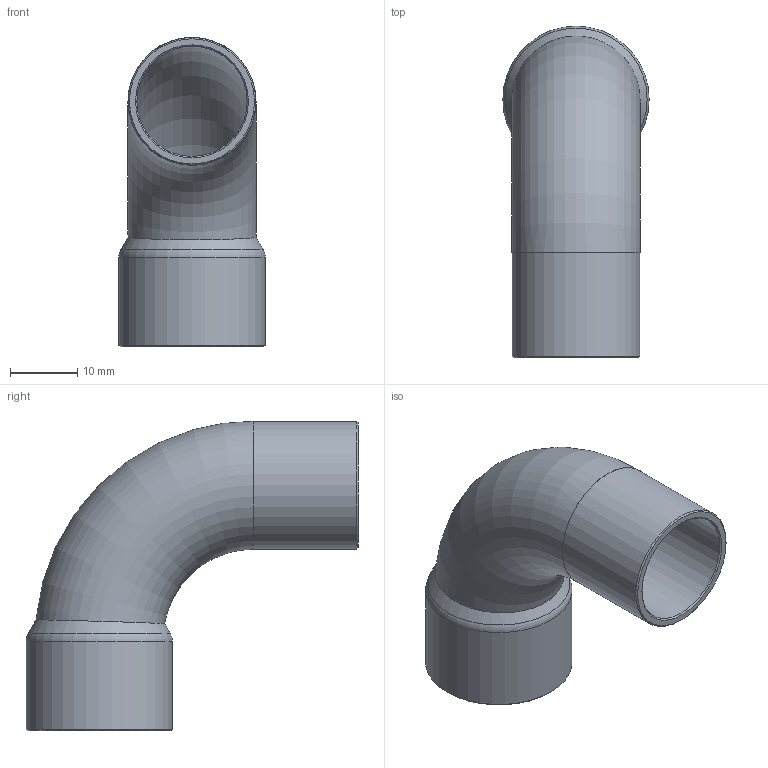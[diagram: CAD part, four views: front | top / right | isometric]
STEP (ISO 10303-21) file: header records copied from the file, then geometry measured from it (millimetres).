
FILE_DESCRIPTION((''),'2;1');
FILE_NAME('G:\SANHA-Ternat\Technik\Management\Bouwmaten + markeringen\z-maattekeningen 3D\29000s\29001A34_3d.stp','2017-07-26T09:54:39',('vdvijverd'),(''),'Autodesk Inventor 2009','Autodesk Inventor 2009','');
FILE_SCHEMA(('AUTOMOTIVE_DESIGN { 1 0 10303 214 1 1 1 1 }'));
Length unit declared in the file: millimetre
Products named in the file (1): 29001A34_3d
Bounding box: 21.77 x 49.38 x 46.02 mm (x, y, z)
Volume: 4908.1 mm3; surface area: 7688.9 mm2
Topology: 1 solids, 1 shells, 18 faces, 34 edges, 20 vertices
Faces by surface type: cone 6, plane 4, cylinder 4, torus 3, bspline 1
Full cylindrical faces by diameter (mm): 16.4 x1, 19 x1, 19.17 x1, 21.77 x1
Entity records: 502 total; most frequent: CARTESIAN_POINT 173, DIRECTION 68, ORIENTED_EDGE 36, EDGE_LOOP 36, AXIS2_PLACEMENT_3D 34, VERTEX_POINT 18, EDGE_CURVE 18, FACE_OUTER_BOUND 18
